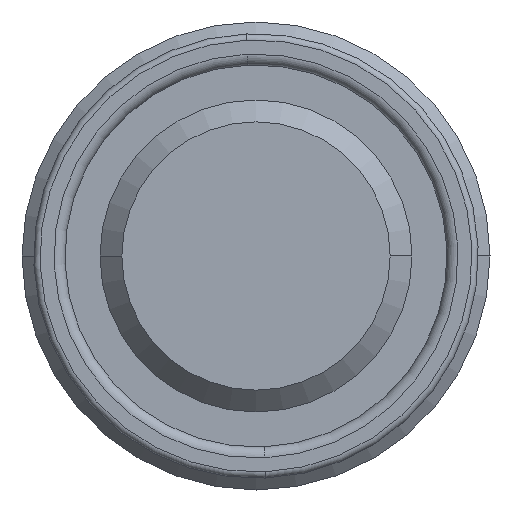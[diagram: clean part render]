
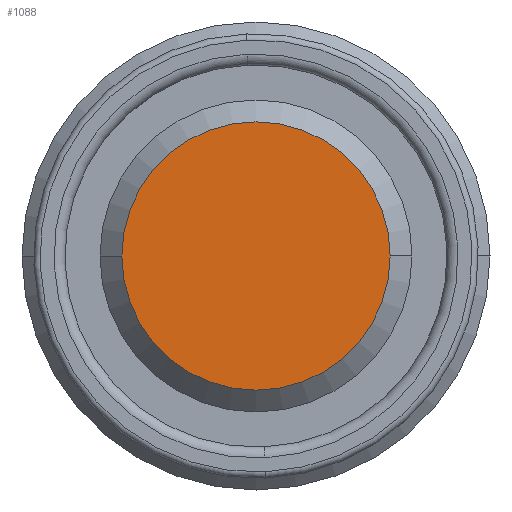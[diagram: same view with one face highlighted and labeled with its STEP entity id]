
A CAD part, front view. The second image highlights one B-rep face of the part: STEP entity #1088.
In plain terms, the highlighted planar face has unit normal (0, -1, 0).
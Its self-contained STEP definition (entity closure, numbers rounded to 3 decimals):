
#770=PLANE('',#2824);
#1088=ADVANCED_FACE('',(#1250),#770,.F.);
#1250=FACE_OUTER_BOUND('',#1385,.T.);
#1385=EDGE_LOOP('',(#1799,#1800));
#1799=ORIENTED_EDGE('',*,*,#2370,.T.);
#1800=ORIENTED_EDGE('',*,*,#2371,.T.);
#2123=VERTEX_POINT('',#4211);
#2124=VERTEX_POINT('',#4212);
#2370=EDGE_CURVE('',#2123,#2124,#2580,.T.);
#2371=EDGE_CURVE('',#2124,#2123,#2581,.T.);
#2580=CIRCLE('',#2822,8.6);
#2581=CIRCLE('',#2823,8.6);
#2822=AXIS2_PLACEMENT_3D('',#4210,#3354,#3355);
#2823=AXIS2_PLACEMENT_3D('',#4213,#3356,#3357);
#2824=AXIS2_PLACEMENT_3D('',#4214,#3358,#3359);
#3354=DIRECTION('',(0.,-1.,0.));
#3355=DIRECTION('',(0.,0.,1.));
#3356=DIRECTION('',(0.,-1.,0.));
#3357=DIRECTION('',(0.,0.,1.));
#3358=DIRECTION('',(0.,1.,0.));
#3359=DIRECTION('',(0.,0.,1.));
#4210=CARTESIAN_POINT('',(0.,18.5,0.));
#4211=CARTESIAN_POINT('',(8.6,18.5,0.));
#4212=CARTESIAN_POINT('',(-8.6,18.5,0.));
#4213=CARTESIAN_POINT('',(0.,18.5,0.));
#4214=CARTESIAN_POINT('',(0.,18.5,0.));
